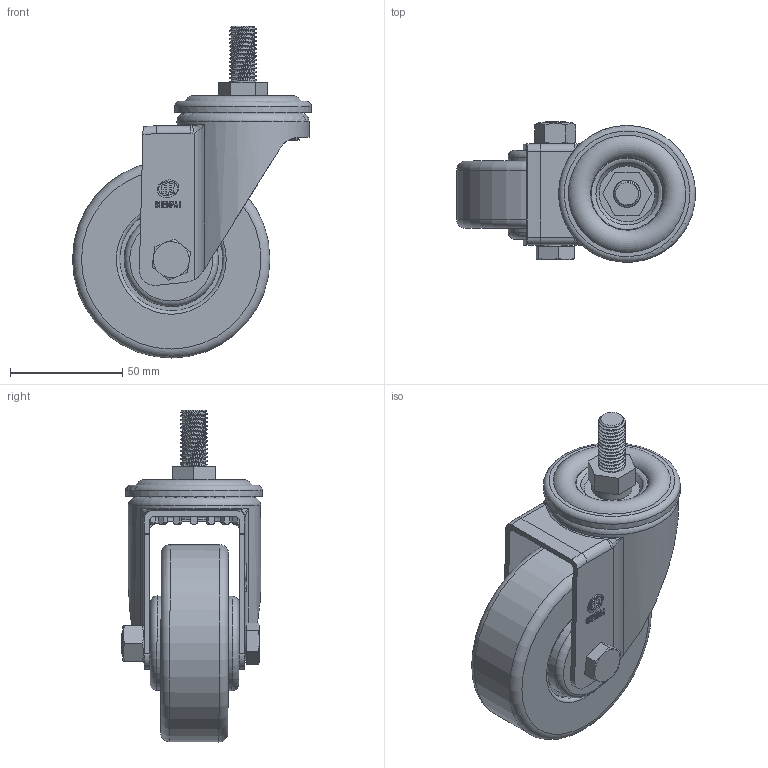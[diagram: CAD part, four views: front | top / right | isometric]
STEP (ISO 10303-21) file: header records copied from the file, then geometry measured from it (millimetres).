
FILE_DESCRIPTION(/* description */ (''),/* implementation_level */ '2;1');
FILE_NAME(/* name */ '20A13_3,5_F.stp',/* time_stamp */ '2022-09-03T10:35:16+08:00',/* author */ (''),/* organization */ (''),/* preprocessor_version */ 'ST-DEVELOPER v14',/* originating_system */ 'SIEMENS PLM Software NX 8.0',/* authorisation */ '');
FILE_SCHEMA (('AUTOMOTIVE_DESIGN { 1 0 10303 214 3 1 1 1 }'));
Length unit declared in the file: millimetre
Products named in the file (1): 20A13_3,5_F
Bounding box: 106.5 x 62.75 x 148 mm (x, y, z)
Volume: 231057.4 mm3; surface area: 79444.2 mm2
Topology: 1 solids, 2 shells, 682 faces, 1970 edges, 1307 vertices
Faces by surface type: plane 318, cylinder 154, sphere 69, torus 65, cone 63, bspline 13
Full cylindrical faces by diameter (mm): 10 x2, 10.2 x1, 10.3 x2, 11.2 x2, 12 x1, 12.2 x1, 12.496 x1, 13.2 x1, 13.6 x3, 16 x1, 18 x1, 20.8 x4, 23.2 x2, 24 x1, 30.122 x1, 33 x2, 41 x2, 42 x2, 45.996 x1, 46 x2, 54 x1, 56 x1, 59 x1, 61 x1, 88 x1
Entity records: 29981 total; most frequent: CARTESIAN_POINT 14467, ORIENTED_EDGE 3374, DIRECTION 2812, EDGE_CURVE 1687, VERTEX_POINT 1166, AXIS2_PLACEMENT_3D 1136, EDGE_LOOP 867, ADVANCED_FACE 678
